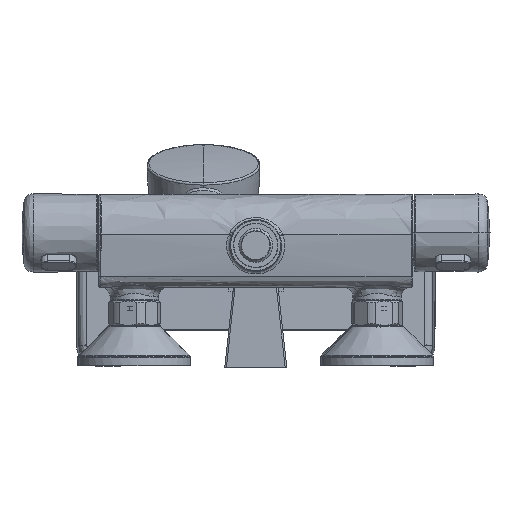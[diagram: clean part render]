
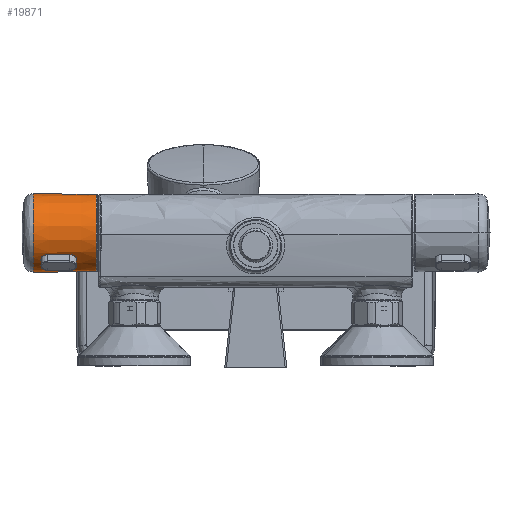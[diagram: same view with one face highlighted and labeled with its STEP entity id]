
A CAD part, front view. The second image highlights one B-rep face of the part: STEP entity #19871.
In plain terms, the highlighted conical face has half-angle 0.25 degrees and reference radius 24.172 mm.
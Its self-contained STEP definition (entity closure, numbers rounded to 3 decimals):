
#1109 = EDGE_CURVE ( 'NONE', #19106, #11036, #13636, .T. ) ;
#3717 = DIRECTION ( 'NONE',  ( 0., 0., 1. ) ) ;
#3911 = ORIENTED_EDGE ( 'NONE', *, *, #7196, .T. ) ;
#4680 = CONICAL_SURFACE ( 'NONE', #24846, 24.172, 0.004 ) ;
#5464 = ORIENTED_EDGE ( 'NONE', *, *, #14893, .F. ) ;
#7196 = EDGE_CURVE ( 'NONE', #10076, #19782, #11454, .T. ) ;
#7891 = LINE ( 'NONE', #22589, #14807 ) ;
#8334 = ORIENTED_EDGE ( 'NONE', *, *, #1109, .T. ) ;
#8557 = CARTESIAN_POINT ( 'NONE',  ( 258.904, 136.134, 81.002 ) ) ;
#10076 = VERTEX_POINT ( 'NONE', #13707 ) ;
#11036 = VERTEX_POINT ( 'NONE', #14266 ) ;
#11191 = CARTESIAN_POINT ( 'NONE',  ( 220.067, 136.134, 57. ) ) ;
#11454 = CIRCLE ( 'NONE', #25189, 24.002 ) ;
#13636 = CIRCLE ( 'NONE', #33303, 24.172 ) ;
#13707 = CARTESIAN_POINT ( 'NONE',  ( 258.904, 136.134, 32.998 ) ) ;
#13801 = DIRECTION ( 'NONE',  ( 1., 0., 0. ) ) ;
#14004 = DIRECTION ( 'NONE',  ( 0., 0., 1. ) ) ;
#14266 = CARTESIAN_POINT ( 'NONE',  ( 220.067, 136.134, 32.828 ) ) ;
#14807 = VECTOR ( 'NONE', #27773, 1000. ) ;
#14893 = EDGE_CURVE ( 'NONE', #10076, #11036, #31969, .T. ) ;
#16288 = CARTESIAN_POINT ( 'NONE',  ( 220.067, 136.134, 32.828 ) ) ;
#16521 = DIRECTION ( 'NONE',  ( -1., 0., 0. ) ) ;
#18641 = ORIENTED_EDGE ( 'NONE', *, *, #23350, .T. ) ;
#19106 = VERTEX_POINT ( 'NONE', #20180 ) ;
#19782 = VERTEX_POINT ( 'NONE', #8557 ) ;
#19871 = ADVANCED_FACE ( 'NONE', ( #20904 ), #4680, .T. ) ;
#20180 = CARTESIAN_POINT ( 'NONE',  ( 220.067, 136.134, 81.172 ) ) ;
#20904 = FACE_OUTER_BOUND ( 'NONE', #22540, .T. ) ;
#21369 = DIRECTION ( 'NONE',  ( 0., 0., 1. ) ) ;
#22540 = EDGE_LOOP ( 'NONE', ( #5464, #3911, #18641, #8334 ) ) ;
#22589 = CARTESIAN_POINT ( 'NONE',  ( 220.067, 136.134, 81.172 ) ) ;
#23350 = EDGE_CURVE ( 'NONE', #19782, #19106, #7891, .T. ) ;
#23752 = DIRECTION ( 'NONE',  ( -1., 0., -0.004 ) ) ;
#24666 = CARTESIAN_POINT ( 'NONE',  ( 258.904, 136.134, 57. ) ) ;
#24846 = AXIS2_PLACEMENT_3D ( 'NONE', #31627, #28917, #21369 ) ;
#25189 = AXIS2_PLACEMENT_3D ( 'NONE', #24666, #16521, #14004 ) ;
#27773 = DIRECTION ( 'NONE',  ( -1., 0., 0.004 ) ) ;
#28917 = DIRECTION ( 'NONE',  ( -1., 0., 0. ) ) ;
#30730 = VECTOR ( 'NONE', #23752, 1000. ) ;
#31627 = CARTESIAN_POINT ( 'NONE',  ( 220.067, 136.134, 57. ) ) ;
#31969 = LINE ( 'NONE', #16288, #30730 ) ;
#33303 = AXIS2_PLACEMENT_3D ( 'NONE', #11191, #13801, #3717 ) ;
